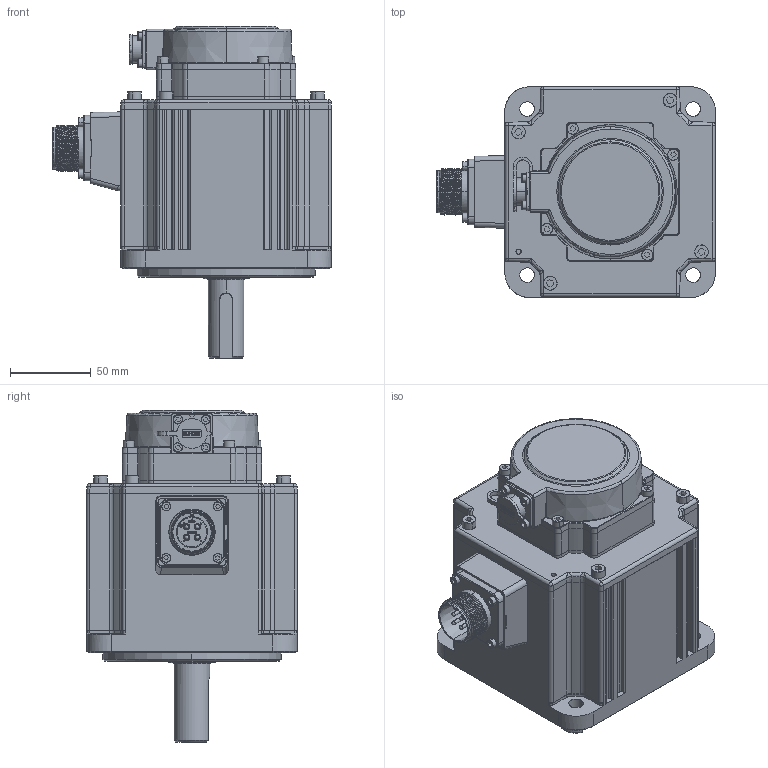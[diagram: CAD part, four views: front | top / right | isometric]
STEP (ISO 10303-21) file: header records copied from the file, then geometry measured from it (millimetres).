
FILE_DESCRIPTION (( 'STEP AP203' ), '1' );
FILE_NAME ('MS6G-130TH15B2-40P8.STEP', '2024-06-18T07:59:25', ( '' ), ( '' ), 'SwSTEP 2.0', 'SolidWorks 2022', '' );
FILE_SCHEMA (( 'CONFIG_CONTROL_DESIGN' ));
Length unit declared in the file: millimetre
Products named in the file (1): MS6G-130TH15B2-40P8
Bounding box: 172.1 x 130 x 205 mm (x, y, z)
Volume: 1934118.5 mm3; surface area: 209138.6 mm2
Topology: 26 solids, 26 shells, 2803 faces, 7552 edges, 4918 vertices
Faces by surface type: plane 1412, cylinder 660, bspline 432, cone 145, torus 134, sphere 20
Entity records: 104635 total; most frequent: CARTESIAN_POINT 39677, ORIENTED_EDGE 14952, DIRECTION 11103, EDGE_CURVE 7476, VERTEX_POINT 4908, LINE 3761, VECTOR 3761, AXIS2_PLACEMENT_3D 3671
